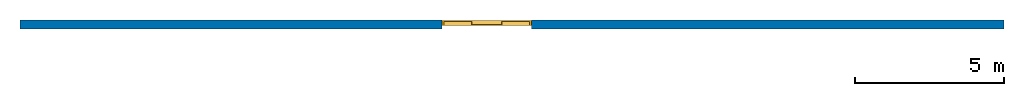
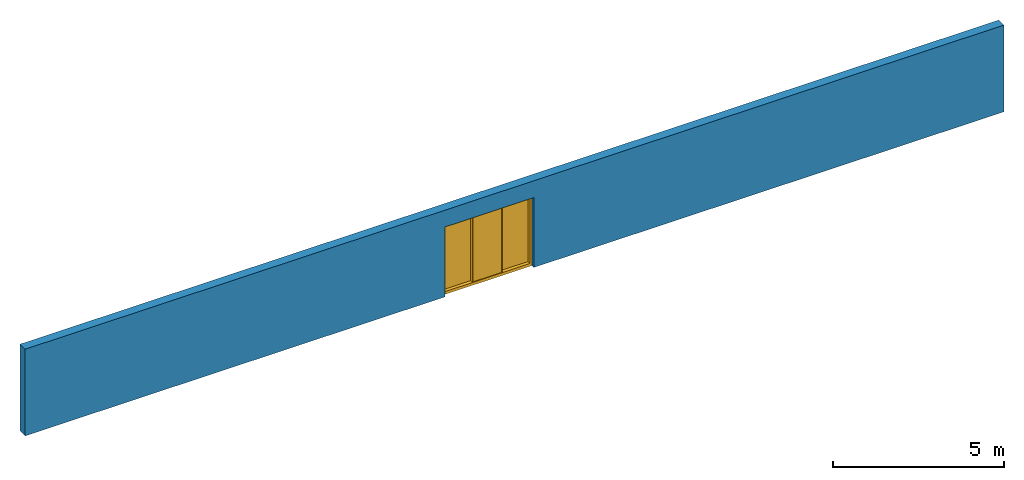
# One storey: 1 wall, 1 window, 1 opening.
"""IFC2X3 building model written with IfcOpenShell, lengths in metres."""

import ifcopenshell
import ifcopenshell.guid

model = None  # the IFC model being written
_history = None  # IfcOwnerHistory: only IFC2X3 demands one
_inside = {}  # id of a spatial element -> (the spatial element, [elements in it])
_under = {}  # id of a project, library or spatial element -> (it, [spatial elements below it])
_declared = {}  # id of a project -> (the project, [libraries it declares])
_typed = {}  # id of a type object -> (the type object, [elements of that type])
_made_of = {}  # id of a material, layer set ... -> (it, [elements and type objects made of it])


def new_model(schema):
    """Start an empty IFC model of exactly this schema.

    Asked for "IFC4X3", IfcOpenShell would pick the latest addendum, in which some entities
    have other attributes; the version numbers below select the first issue.
    IFC2X3 requires an IfcOwnerHistory on every rooted entity: one is made here for all.
    """
    global model, _history
    if schema == "IFC4X3":
        model = ifcopenshell.file(schema_version=(4, 3, 0, 0))
    else:
        model = ifcopenshell.file(schema=schema)
    _inside.clear()
    _under.clear()
    _declared.clear()
    _typed.clear()
    _made_of.clear()
    _history = None
    if model.schema == "IFC2X3":
        org = make("IfcOrganization", Name="unknown")
        user = make(
            "IfcPersonAndOrganization",
            ThePerson=make("IfcPerson", FamilyName="unknown"),
            TheOrganization=org,
        )
        app = make(
            "IfcApplication",
            ApplicationDeveloper=org,
            Version="unknown",
            ApplicationFullName="unknown",
            ApplicationIdentifier="unknown",
        )
        _history = make(
            "IfcOwnerHistory",
            OwningUser=user,
            OwningApplication=app,
            ChangeAction="ADDED",
            CreationDate=0,
        )
    return model


def make(cls, **values):
    """One entity of the class cls with the attributes given. An attribute that is None is left unset."""
    return model.create_entity(
        cls, **{name: value for name, value in values.items() if value is not None}
    )


def entity(cls, *values):
    """Any entity or typed value of the class cls, its attributes in the order of the schema. None: left unset."""
    e = model.create_entity(cls)
    for i, value in enumerate(values):
        if value is not None:
            e[i] = value
    return e


def rooted(cls, **values):
    """An entity with a GlobalId (a new one), such as an element, a storey or a relation."""
    return make(cls, GlobalId=ifcopenshell.guid.new(), OwnerHistory=_history, **values)


def si_unit(unit_type, name, prefix=None):
    """IfcSIUnit, for example si_unit("LENGTHUNIT", "METRE", prefix="MILLI")."""
    return make("IfcSIUnit", UnitType=unit_type, Prefix=prefix, Name=name)


def converted_unit(unit_type, name, factor, base, dimensions=None, offset=None):
    """IfcConversionBasedUnit, such as the inch: factor (a typed value) times the base unit."""
    return make(
        "IfcConversionBasedUnit"
        if offset is None
        else "IfcConversionBasedUnitWithOffset",
        ConversionOffset=offset,
        Dimensions=None
        if dimensions is None
        else entity("IfcDimensionalExponents", *dimensions),
        UnitType=unit_type,
        Name=name,
        ConversionFactor=make(
            "IfcMeasureWithUnit", ValueComponent=factor, UnitComponent=base
        ),
    )


def derived_unit(unit_type, elements):
    """IfcDerivedUnit: a product of units, each with its exponent."""
    return make(
        "IfcDerivedUnit",
        Elements=[
            make("IfcDerivedUnitElement", Unit=unit, Exponent=power)
            for unit, power in elements
        ],
        UnitType=unit_type,
    )


def assignment(units):
    """IfcUnitAssignment: the units of a project."""
    return None if units is None else make("IfcUnitAssignment", Units=units)


def point(xyz):
    """IfcCartesianPoint."""
    return None if xyz is None else make("IfcCartesianPoint", Coordinates=xyz)


def direction(xyz):
    """IfcDirection."""
    return None if xyz is None else make("IfcDirection", DirectionRatios=xyz)


def frame(location, z_axis=None, x_axis=None):
    """IfcAxis2Placement3D, a coordinate frame: its origin and axes. An axis left out is left unset."""
    return make(
        "IfcAxis2Placement3D",
        Location=point(location),
        Axis=direction(z_axis),
        RefDirection=direction(x_axis),
    )


def frame_2d(location, x_axis=None):
    """IfcAxis2Placement2D, a coordinate frame in the plane: its origin and x axis."""
    return make(
        "IfcAxis2Placement2D", Location=point(location), RefDirection=direction(x_axis)
    )


def origin():
    """The frame at (0, 0, 0) with its axes left unset."""
    return frame((0.0, 0.0, 0.0))


def origin_2d_with_axis():
    """The frame at (0, 0) in the plane with the x axis (1, 0) written out."""
    return frame_2d((0.0, 0.0), x_axis=(1.0, 0.0))


def place(relative_to, where):
    """IfcLocalPlacement: puts the frame where relative to a parent placement (None: the world)."""
    return make(
        "IfcLocalPlacement", PlacementRelTo=relative_to, RelativePlacement=where
    )


def context(
    kind, dimensions, precision=None, world=None, true_north=None, identifier=None
):
    """IfcGeometricRepresentationContext, for example the 3D "Model" context."""
    return make(
        "IfcGeometricRepresentationContext",
        ContextIdentifier=identifier,
        ContextType=kind,
        CoordinateSpaceDimension=dimensions,
        Precision=precision,
        WorldCoordinateSystem=world,
        TrueNorth=true_north,
    )


def subcontext(parent, identifier, kind, view, scale=None):
    """IfcGeometricRepresentationSubContext, for example "Body" below "Model"."""
    return make(
        "IfcGeometricRepresentationSubContext",
        ContextIdentifier=identifier,
        ContextType=kind,
        ParentContext=parent,
        TargetScale=scale,
        TargetView=view,
    )


def project(units=None, contexts=None):
    """IfcProject with its units and contexts."""
    return rooted(
        "IfcProject",
        Name="project",
        RepresentationContexts=contexts,
        UnitsInContext=assignment(units),
    )


def spatial(cls, under=None, at=None, **own):
    """A site, building, storey or space (cls), placed at a placement, below another one or the project."""
    s = rooted(cls, ObjectPlacement=at, **own)
    if under is not None:
        _under.setdefault(under.id(), (under, []))[1].append(s)
    return s


def polyline(points):
    """IfcPolyline through the points."""
    return make("IfcPolyline", Points=[point(p) for p in points])


def profile(cls, at=None, kind="AREA", **sizes):
    """A parametric profile (cls). Its sizes go by their IFC names, for example OverallWidth=200.0."""
    return make(cls, ProfileType=kind, Position=at, **sizes)


def rectangle(**sizes):
    """IfcRectangleProfileDef."""
    return profile("IfcRectangleProfileDef", **sizes)


def outline(outer, holes=None, kind="AREA"):
    """IfcArbitraryClosedProfileDef: a profile drawn as a closed curve; with holes, ...WithVoids."""
    if holes is None:
        return make("IfcArbitraryClosedProfileDef", ProfileType=kind, OuterCurve=outer)
    return make(
        "IfcArbitraryProfileDefWithVoids",
        ProfileType=kind,
        OuterCurve=outer,
        InnerCurves=holes,
    )


def extrude(swept, where, along, depth):
    """IfcExtrudedAreaSolid: the profile swept, set in the frame where, extruded along a direction by depth."""
    return make(
        "IfcExtrudedAreaSolid",
        SweptArea=swept,
        Position=where,
        ExtrudedDirection=direction(along),
        Depth=depth,
    )


def shape(context_of_items, identifier, shape_type, items):
    """IfcShapeRepresentation: the items that make up one representation, for example the "Body"."""
    return make(
        "IfcShapeRepresentation",
        ContextOfItems=context_of_items,
        RepresentationIdentifier=identifier,
        RepresentationType=shape_type,
        Items=items,
    )


def source(mapping_origin, context_of_items, identifier, shape_type, items):
    """IfcRepresentationMap: a shape defined once, which mapped items show again and again."""
    return make(
        "IfcRepresentationMap",
        MappingOrigin=mapping_origin,
        MappedRepresentation=shape(context_of_items, identifier, shape_type, items),
    )


def transform(
    local_origin,
    x_axis=None,
    y_axis=None,
    z_axis=None,
    scale=None,
    scale2=None,
    scale3=None,
    uniform=True,
):
    """IfcCartesianTransformationOperator3D, or its non-uniform kind. x_axis, y_axis, z_axis: its Axis1, 2, 3."""
    if uniform:
        return make(
            "IfcCartesianTransformationOperator3D",
            Axis1=direction(x_axis),
            Axis2=direction(y_axis),
            LocalOrigin=point(local_origin),
            Scale=scale,
            Axis3=direction(z_axis),
        )
    return make(
        "IfcCartesianTransformationOperator3DnonUniform",
        Axis1=direction(x_axis),
        Axis2=direction(y_axis),
        LocalOrigin=point(local_origin),
        Scale=scale,
        Axis3=direction(z_axis),
        Scale2=scale2,
        Scale3=scale3,
    )


def mapped(mapping_source, mapping_target):
    """IfcMappedItem: shows the shape of a source again, moved by a transform."""
    return make(
        "IfcMappedItem", MappingSource=mapping_source, MappingTarget=mapping_target
    )


def material(Name=None, Category=None):
    """IfcMaterial."""
    return make("IfcMaterial", Name=Name, Category=Category)


def material_list(materials):
    """IfcMaterialList."""
    return make("IfcMaterialList", Materials=materials)


def layer(
    of_material, thickness, ventilated=None, Name=None, Category=None, Priority=None
):
    """IfcMaterialLayer: one layer of a wall or slab, of a material (None: an air gap)."""
    return make(
        "IfcMaterialLayer",
        Material=of_material,
        LayerThickness=thickness,
        IsVentilated=ventilated,
        Name=Name,
        Category=Category,
        Priority=Priority,
    )


def layer_set(layers, Name=None):
    """IfcMaterialLayerSet."""
    return make("IfcMaterialLayerSet", MaterialLayers=layers, LayerSetName=Name)


def layer_usage(for_layer_set, set_direction, sense, offset, extent=None):
    """IfcMaterialLayerSetUsage: how a layer set lies in its element."""
    return make(
        "IfcMaterialLayerSetUsage",
        ForLayerSet=for_layer_set,
        LayerSetDirection=set_direction,
        DirectionSense=sense,
        OffsetFromReferenceLine=offset,
        ReferenceExtent=extent,
    )


def made_of(thing, what):
    """Note that an element or type object is made of a material, layer set ...; save() writes the relation."""
    if what is not None:
        _made_of.setdefault(what.id(), (what, []))[1].append(thing)
    return thing


def type_object(cls, material=None, **own):
    """A type object (cls), such as IfcWallType, which elements share."""
    return made_of(rooted(cls, **own), material)


def type_shapes(of_type, sources):
    """Give a type object the sources (RepresentationMaps) that its elements show as mapped items."""
    of_type.RepresentationMaps = sources


def element(
    cls,
    number,
    at=None,
    inside=None,
    cuts=None,
    type_object=None,
    material=None,
    context=None,
    identifier="Body",
    shape_type=None,
    held_by="IfcProductDefinitionShape",
    body=None,
    shapes=None,
    **own,
):
    """One element of the class cls, such as IfcWall. Its Tag is "e" and its number.

    at: its placement. inside: the storey or other place that contains it. cuts: it is an
    opening in that element (IfcRelVoidsElement). A single representation is given by context,
    identifier, shape_type and body (its items); several are given by shapes. held_by: the class
    of the entity that holds the representations. save() writes the other relations.
    """
    e = rooted(cls, Tag="e%d" % number, ObjectPlacement=at, **own)
    if body is not None:
        shapes = [shape(context, identifier, shape_type, body)]
    if shapes is not None:
        e.Representation = make(held_by, Representations=shapes)
    if inside is not None:
        _inside.setdefault(inside.id(), (inside, []))[1].append(e)
    if cuts is not None:
        rooted(
            "IfcRelVoidsElement", RelatingBuildingElement=cuts, RelatedOpeningElement=e
        )
    if type_object is not None:
        _typed.setdefault(type_object.id(), (type_object, []))[1].append(e)
    return made_of(e, material)


def fill(opening, filler):
    """IfcRelFillsElement: the door or window that sits in an opening."""
    return rooted(
        "IfcRelFillsElement",
        RelatingOpeningElement=opening,
        RelatedBuildingElement=filler,
    )


def aggregate(whole, parts):
    """IfcRelAggregates: a whole, such as a stair, and the parts it consists of."""
    return rooted("IfcRelAggregates", RelatingObject=whole, RelatedObjects=parts)


def save(model, path):
    """Write the relations noted so far, then the file.

    IfcRelAggregates (storeys below a building ...), IfcRelContainedInSpatialStructure (elements
    in a storey), IfcRelDefinesByType, IfcRelAssociatesMaterial and IfcRelDeclares: one each for
    every whole, place, type object, material and project.
    """
    for whole, parts in _under.values():
        aggregate(whole, parts)
    for where, things in _inside.values():
        rooted(
            "IfcRelContainedInSpatialStructure",
            RelatedElements=things,
            RelatingStructure=where,
        )
    for kind, things in _typed.values():
        rooted("IfcRelDefinesByType", RelatedObjects=things, RelatingType=kind)
    for what, things in _made_of.values():
        rooted("IfcRelAssociatesMaterial", RelatedObjects=things, RelatingMaterial=what)
    for by, libraries in _declared.values():
        rooted("IfcRelDeclares", RelatingContext=by, RelatedDefinitions=libraries)
    model.write(path)


model = new_model("IFC2X3")

# Units and contexts
model_context = context("Model", 3, precision=1e-09, world=origin(), true_north=direction((2.0, 6.12303176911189e-17, 1.0)))
context_of_model = context(None, 3, precision=1e-09, world=origin(), true_north=direction((2.0, 6.12303176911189e-17, 1.0)))
body_context = subcontext(model_context, "Body", "Model", "MODEL_VIEW")
ifc_project = project(units=[si_unit("LENGTHUNIT", "METRE"), si_unit("AREAUNIT", "SQUARE_METRE"), si_unit("VOLUMEUNIT", "CUBIC_METRE"), converted_unit("PLANEANGLEUNIT", "DEGREE", entity("IfcRatioMeasure", 0.0174532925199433), si_unit("PLANEANGLEUNIT", "RADIAN"), dimensions=[0, 0, 0, 0, 0, 0, 0]), si_unit("MASSUNIT", "GRAM", prefix="KILO"), si_unit("TIMEUNIT", "SECOND"), si_unit("THERMODYNAMICTEMPERATUREUNIT", "KELVIN"), derived_unit("THERMALTRANSMITTANCEUNIT", [(si_unit("MASSUNIT", "GRAM", prefix="KILO"), 1), (si_unit("THERMODYNAMICTEMPERATUREUNIT", "KELVIN"), -1), (si_unit("TIMEUNIT", "SECOND"), -3)]), derived_unit("VOLUMETRICFLOWRATEUNIT", [(si_unit("LENGTHUNIT", "METRE"), 3), (si_unit("TIMEUNIT", "SECOND"), -1)]), si_unit("POWERUNIT", "WATT")], contexts=[model_context, context_of_model])

# Site, building, storey
site_placement = place(None, origin())
site = spatial("IfcSite", under=ifc_project, at=site_placement, Name="Default", CompositionType="ELEMENT")
building_placement = place(site_placement, origin())
building = spatial("IfcBuilding", under=site, at=building_placement, CompositionType="ELEMENT")
storey_placement = place(building_placement, origin())
storey = spatial("IfcBuildingStorey", under=building, at=storey_placement, Name="0 - Piano Terra", CompositionType="ELEMENT", Elevation=0.0)

# Wall, opening, window
ifc_material_1 = material(Name="Default - Muro")
ifc_layer = layer(ifc_material_1, 0.3)
ifc_layer_set = layer_set([ifc_layer], Name="Muro di base:Generico - 30 cm")
ifc_layer_usage = layer_usage(ifc_layer_set, "AXIS2", "NEGATIVE", 0.15)
wall_type = type_object("IfcWallType", Name="Muro di base:Generico - 30 cm", PredefinedType="STANDARD", material=ifc_layer_set)
wall_placement = place(storey_placement, frame((-16.5980224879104, -0.42211747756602, 0.0)))
wall = element("IfcWallStandardCase", 1, at=wall_placement, inside=storey, type_object=wall_type, material=ifc_layer_usage, Name="Muro di base:Generico - 30 cm", ObjectType="Muro di base:Generico - 30 cm:952", context=body_context, shape_type="SweptSolid", body=[
    extrude(rectangle(XDim=33.1, YDim=0.3, at=frame_2d((16.55, -2.77555756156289e-17), x_axis=(-1.0, 0.0))), origin(), (0.0, 0.0, 1.0), 3.1),
])
opening_placement = place(wall_placement, frame((14.2, -0.150000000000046, 0.0)))
opening = element("IfcOpeningElement", 2, at=opening_placement, cuts=wall, Name="Aluk_Infinium_3 ante:2 ante scorrevoli + 1 anta fissa:1", ObjectType="Opening", context=body_context, shape_type="SweptSolid", body=[
    extrude(rectangle(XDim=2.50000000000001, YDim=2.99999999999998, at=frame_2d((1.25000000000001, 1.49999999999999), x_axis=(1.0, 0.0))), frame((0.0, 0.0, 0.0), z_axis=(0.0, 1.0, 0.0), x_axis=(0.0, 0.0, 1.0)), (0.0, 0.0, 1.0), 0.3),
])
ifc_material_2 = material(Name="Aluk (IT)")
ifc_material_3 = material(Name="Vetro")
ifc_material_list_1 = material_list([ifc_material_2, ifc_material_3])
ifc_material_list_2 = material_list([ifc_material_2, ifc_material_3])
window_style = type_object("IfcWindowStyle", Name="2 ante scorrevoli + 1 anta fissa", ConstructionType="NOTDEFINED", OperationType="NOTDEFINED", ParameterTakesPrecedence=False, Sizeable=False, material=ifc_material_list_2)
shared_shape = source(origin(), body_context, "Body", "SweptSolid", [
    extrude(outline(polyline([(-1.48540036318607, -1.21890078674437), (1.48540036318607, -1.21890078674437), (1.48540036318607, 1.21890078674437), (-1.48540036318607, 1.21890078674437), (-1.48540036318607, -1.21890078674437)]), holes=[polyline([(1.43300167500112, -1.16650209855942), (-1.43300167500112, -1.16650209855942), (-1.43300167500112, 1.16650209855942), (1.43300167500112, 1.16650209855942), (1.43300167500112, -1.16650209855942)])]), frame((1.50000000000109, 0.110004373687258, 1.26649959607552), z_axis=(0.0, 1.0, 0.0), x_axis=(-1.0, 0.0, 0.0)), (0.0, 0.0, 1.0), 0.174995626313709),
    extrude(outline(polyline([(-1.22255068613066, -1.48540036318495), (-1.22255068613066, -1.5), (1.22985050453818, -1.5), (1.22985050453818, 1.5), (-1.22255068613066, 1.5), (-1.22255068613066, 1.48540036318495), (1.21525086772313, 1.48540036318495), (1.21525086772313, -1.48540036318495), (-1.22255068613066, -1.48540036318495)])), frame((1.49999999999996, 0.118654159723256, 1.27014949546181), z_axis=(0.0, -1.0, 0.0), x_axis=(0.0, 0.0, 1.0)), (0.0, 0.0, -1.0), 0.157696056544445),
    extrude(outline(polyline([(-0.0788480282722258, -0.0105209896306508), (0.0283828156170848, -0.0105209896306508), (0.0283828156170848, 0.00245234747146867), (0.0633194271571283, 0.00245234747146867), (0.0633194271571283, -0.0105209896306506), (0.078848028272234, -0.0105209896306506), (0.078848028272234, 0.0104482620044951), (-0.0283828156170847, 0.0104482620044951), (-0.0283828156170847, -0.00233711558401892), (-0.0633194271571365, -0.00233711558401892), (-0.0633194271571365, 0.0104784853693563), (-0.0788480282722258, 0.0104784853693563), (-0.0788480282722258, -0.0105209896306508)])), frame((2.00001903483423, 0.197502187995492, 0.0999974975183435), z_axis=(0.0, 0.0, 1.0), x_axis=(0.0, -1.0, 0.0)), (0.0, 0.0, 1.0), 2.33297865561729),
    extrude(outline(polyline([(-0.0105232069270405, -0.0789400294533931), (0.0104762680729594, -0.0789400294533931), (0.0104762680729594, -0.0633010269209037), (-0.00233933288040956, -0.0633010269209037), (-0.00233933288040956, -0.0283644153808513), (0.0104762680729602, -0.0283644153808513), (0.0104762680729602, 0.0788664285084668), (-0.0105445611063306, 0.0788664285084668), (-0.0105445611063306, 0.0633378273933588), (0.00245456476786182, 0.0633378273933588), (0.00245456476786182, 0.0284012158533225), (-0.0105232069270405, 0.0284012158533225), (-0.0105232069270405, -0.0789400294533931)])), frame((0.999978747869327, 0.197520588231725, 0.0999974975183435), z_axis=(0.0, 0.0, 1.0), x_axis=(-1.0, 0.0, 0.0)), (0.0, 0.0, 1.0), 2.33297865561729),
    extrude(rectangle(XDim=0.0100000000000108, YDim=0.948135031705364, at=frame_2d((0.0, 8.32667268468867e-17), x_axis=(1.0, 0.0))), frame((0.528250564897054, 0.230885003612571, 0.0881993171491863), z_axis=(0.0, 0.0, 1.0), x_axis=(0.0, -1.0, 0.0)), (0.0, 0.0, 1.0), 2.35777498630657),
    extrude(rectangle(XDim=0.948135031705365, YDim=0.0100000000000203, at=frame_2d((1.38777878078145e-16, 8.67361737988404e-18), x_axis=(1.0, 0.0))), frame((0.528250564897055, 0.255821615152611, 0.0881993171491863), z_axis=(0.0, 0.0, 1.0), x_axis=(-1.0, 0.0, 0.0)), (0.0, 0.0, 1.0), 2.35777498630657),
    extrude(rectangle(XDim=1.00494719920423, YDim=0.0100000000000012, at=origin_2d_with_axis()), frame((1.49999778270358, 0.164119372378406, 0.0881993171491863), z_axis=(0.0, 0.0, 1.0), x_axis=(-1.0, 0.0, 0.0)), (0.0, 0.0, 1.0), 2.35777498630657),
    extrude(rectangle(XDim=0.00999999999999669, YDim=1.00494719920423, at=origin_2d_with_axis()), frame((1.49999778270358, 0.139182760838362, 0.0881993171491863), z_axis=(0.0, 0.0, 1.0), x_axis=(0.0, -1.0, 0.0)), (0.0, 0.0, 1.0), 2.35777498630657),
    extrude(rectangle(XDim=0.00999999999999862, YDim=0.948139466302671, at=frame_2d((-8.23993651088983e-18, 0.0), x_axis=(1.0, 0.0))), frame((2.47174721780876, 0.230885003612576, 0.0881993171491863), z_axis=(0.0, 0.0, 1.0), x_axis=(0.0, 1.0, 0.0)), (0.0, 0.0, 1.0), 2.35777498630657),
    extrude(rectangle(XDim=0.94813946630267, YDim=0.010000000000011, at=frame_2d((0.0, 8.67361737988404e-18), x_axis=(1.0, 0.0))), frame((2.47174721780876, 0.255821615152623, 0.0881993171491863)), (0.0, 0.0, 1.0), 2.35777498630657),
    extrude(rectangle(XDim=3.0, YDim=0.174695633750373, at=origin_2d_with_axis()), frame((1.49999999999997, 0.197352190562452, 0.0)), (0.0, 0.0, 1.0), 0.0475988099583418),
])
type_shapes(window_style, [shared_shape])
window_placement = place(storey_placement, frame((-2.39802248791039, -0.572117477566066, 0.0)))
window = element("IfcWindow", 3, at=window_placement, inside=storey, type_object=window_style, material=ifc_material_list_1, Name="Aluk_Infinium_3 ante:2 ante scorrevoli + 1 anta fissa", ObjectType="2 ante scorrevoli + 1 anta fissa", OverallHeight=2.50000000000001, OverallWidth=2.99999999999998, context=body_context, shape_type="MappedRepresentation", body=[
    mapped(shared_shape, transform((0.0, 0.0, 0.0), scale=1.0)),
])
fill(opening, window)

save(model, "model.ifc")
